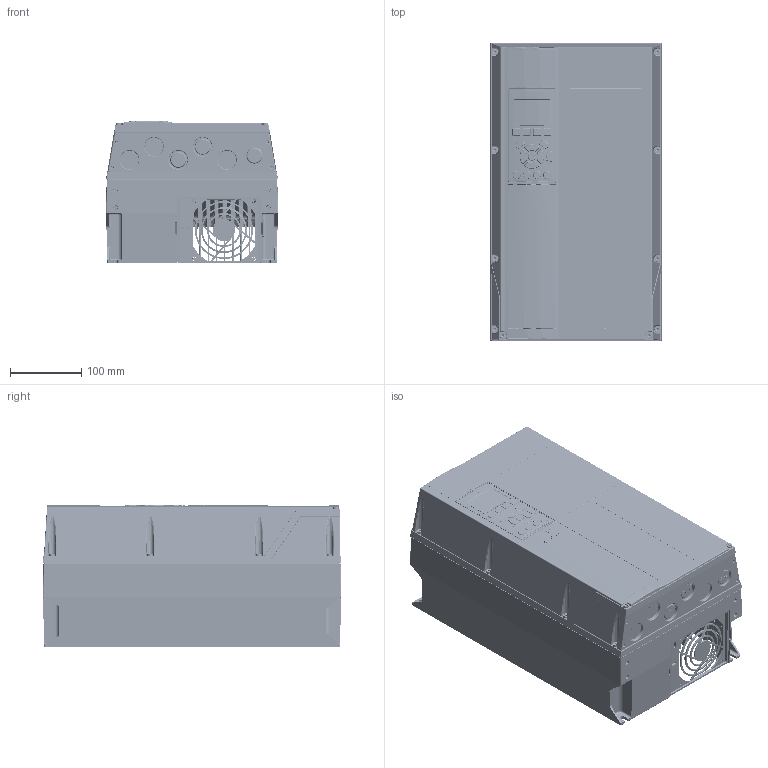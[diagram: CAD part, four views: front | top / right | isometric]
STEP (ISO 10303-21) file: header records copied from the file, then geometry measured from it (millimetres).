
FILE_DESCRIPTION((''),'2;1');
FILE_NAME('DANFOSS-FC-300-A5','2011-10-20T',('cstephenkumar'),('Be-Atch INC. 1993'),'PRO/ENGINEER BY PARAMETRIC TECHNOLOGY CORPORATION, 2009360','PRO/ENGINEER BY PARAMETRIC TECHNOLOGY CORPORATION, 2009360','');
FILE_SCHEMA(('AUTOMOTIVE_DESIGN { 1 0 10303 214 1 1 1 1 }'));
Products named in the file (1): DANFOSS-FC-300-A5
Bounding box: 242 x 420.2 x 201.24 mm (x, y, z)
Volume: 13675163.4 mm3; surface area: 1514838.5 mm2
Topology: 1 solids, 40 shells, 7152 faces, 18175 edges, 11211 vertices
Faces by surface type: plane 2574, cylinder 1947, bspline 1770, torus 297, cone 268, sphere 169, extrusion 127
Entity records: 394345 total; most frequent: CARTESIAN_POINT 235889, ORIENTED_EDGE 36306, DIRECTION 27585, EDGE_CURVE 18153, VERTEX_POINT 11211, AXIS2_PLACEMENT_3D 9379, VECTOR 8827, LINE 8700
